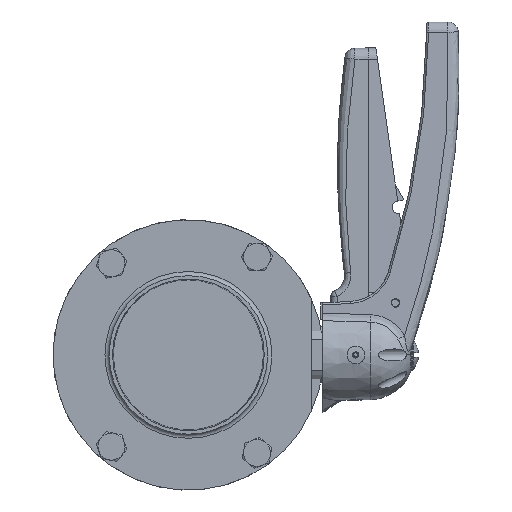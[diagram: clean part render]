
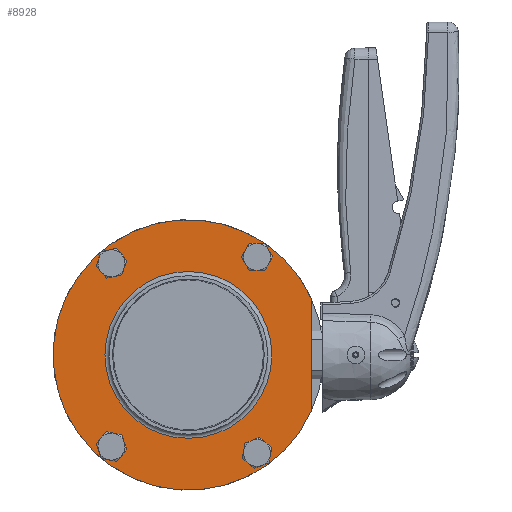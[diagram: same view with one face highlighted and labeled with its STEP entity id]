
A CAD part, front view. The second image highlights one B-rep face of the part: STEP entity #8928.
In plain terms, the highlighted planar face has unit normal (0, -1, 0) as drawn and (1, 0, 0) by its records, which use the part's own axes.
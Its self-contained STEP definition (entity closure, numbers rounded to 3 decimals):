
#1570=LINE('',#24198,#2169);
#2169=VECTOR('',#11842,10.);
#2270=FACE_BOUND('',#3257,.T.);
#2271=FACE_BOUND('',#3258,.T.);
#2272=FACE_BOUND('',#3259,.T.);
#2273=FACE_BOUND('',#3260,.T.);
#2274=FACE_BOUND('',#3261,.T.);
#2710=FACE_OUTER_BOUND('',#3256,.T.);
#3256=EDGE_LOOP('',(#7956,#7957));
#3257=EDGE_LOOP('',(#7958));
#3258=EDGE_LOOP('',(#7959));
#3259=EDGE_LOOP('',(#7960));
#3260=EDGE_LOOP('',(#7961));
#3261=EDGE_LOOP('',(#7962));
#3607=CIRCLE('',#9844,65.);
#3613=CIRCLE('',#9852,4.25);
#3614=CIRCLE('',#9854,4.25);
#3615=CIRCLE('',#9856,4.25);
#3616=CIRCLE('',#9858,4.25);
#3617=CIRCLE('',#9860,40.1);
#4366=VERTEX_POINT('',#24196);
#4367=VERTEX_POINT('',#24197);
#4375=VERTEX_POINT('',#24219);
#4376=VERTEX_POINT('',#24223);
#4377=VERTEX_POINT('',#24227);
#4378=VERTEX_POINT('',#24231);
#4379=VERTEX_POINT('',#24235);
#5564=EDGE_CURVE('',#4366,#4367,#1570,.T.);
#5569=EDGE_CURVE('',#4367,#4366,#3607,.T.);
#5575=EDGE_CURVE('',#4375,#4375,#3613,.T.);
#5577=EDGE_CURVE('',#4376,#4376,#3614,.T.);
#5579=EDGE_CURVE('',#4377,#4377,#3615,.T.);
#5581=EDGE_CURVE('',#4378,#4378,#3616,.T.);
#5583=EDGE_CURVE('',#4379,#4379,#3617,.T.);
#7956=ORIENTED_EDGE('',*,*,#5564,.T.);
#7957=ORIENTED_EDGE('',*,*,#5569,.T.);
#7958=ORIENTED_EDGE('',*,*,#5575,.T.);
#7959=ORIENTED_EDGE('',*,*,#5577,.T.);
#7960=ORIENTED_EDGE('',*,*,#5579,.T.);
#7961=ORIENTED_EDGE('',*,*,#5581,.T.);
#7962=ORIENTED_EDGE('',*,*,#5583,.F.);
#8464=PLANE('',#9859);
#8928=ADVANCED_FACE('',(#2710,#2270,#2271,#2272,#2273,#2274),#8464,.T.);
#9844=AXIS2_PLACEMENT_3D('',#24206,#11850,#11851);
#9852=AXIS2_PLACEMENT_3D('',#24220,#11866,#11867);
#9854=AXIS2_PLACEMENT_3D('',#24224,#11871,#11872);
#9856=AXIS2_PLACEMENT_3D('',#24228,#11876,#11877);
#9858=AXIS2_PLACEMENT_3D('',#24232,#11881,#11882);
#9859=AXIS2_PLACEMENT_3D('',#24234,#11884,#11885);
#9860=AXIS2_PLACEMENT_3D('',#24236,#11886,#11887);
#11842=DIRECTION('',(0.,0.,1.));
#11850=DIRECTION('center_axis',(1.,0.,0.));
#11851=DIRECTION('ref_axis',(0.,0.,-1.));
#11866=DIRECTION('center_axis',(-1.,0.,0.));
#11867=DIRECTION('ref_axis',(0.,0.,1.));
#11871=DIRECTION('center_axis',(-1.,0.,0.));
#11872=DIRECTION('ref_axis',(0.,0.,1.));
#11876=DIRECTION('center_axis',(-1.,0.,0.));
#11877=DIRECTION('ref_axis',(0.,0.,-1.));
#11881=DIRECTION('center_axis',(-1.,0.,0.));
#11882=DIRECTION('ref_axis',(0.,0.,-1.));
#11884=DIRECTION('center_axis',(1.,0.,0.));
#11885=DIRECTION('ref_axis',(0.,0.,-1.));
#11886=DIRECTION('center_axis',(1.,0.,0.));
#11887=DIRECTION('ref_axis',(0.,0.,-1.));
#24196=CARTESIAN_POINT('',(10.,59.,-27.276));
#24197=CARTESIAN_POINT('',(10.,59.,27.276));
#24198=CARTESIAN_POINT('',(10.,59.,-13.638));
#24206=CARTESIAN_POINT('Origin',(10.,0.,0.));
#24219=CARTESIAN_POINT('',(10.,32.981,42.851));
#24220=CARTESIAN_POINT('Origin',(10.,32.981,47.101));
#24223=CARTESIAN_POINT('',(10.,-36.96,39.798));
#24224=CARTESIAN_POINT('Origin',(10.,-36.96,44.048));
#24227=CARTESIAN_POINT('',(10.,32.981,-42.851));
#24228=CARTESIAN_POINT('Origin',(10.,32.981,-47.101));
#24231=CARTESIAN_POINT('',(10.,-36.96,-39.798));
#24232=CARTESIAN_POINT('Origin',(10.,-36.96,-44.048));
#24234=CARTESIAN_POINT('Origin',(10.,40.1,0.));
#24235=CARTESIAN_POINT('',(10.,0.,40.1));
#24236=CARTESIAN_POINT('Origin',(10.,0.,0.));
